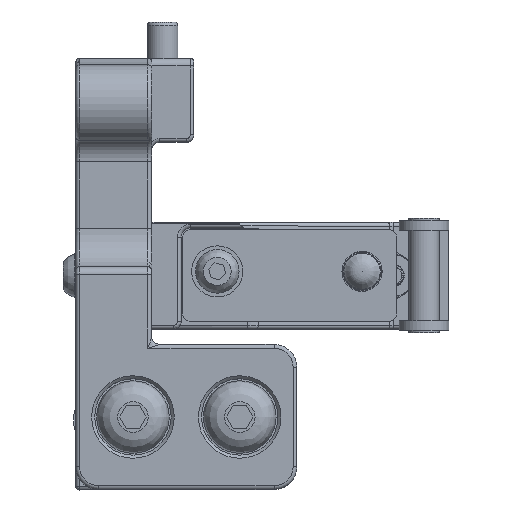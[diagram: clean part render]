
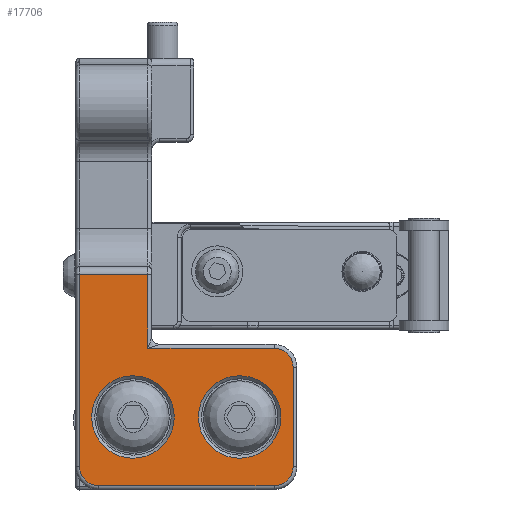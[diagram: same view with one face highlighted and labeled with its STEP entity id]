
A CAD part, top view. The second image highlights one B-rep face of the part: STEP entity #17706.
In plain terms, the highlighted planar face has unit normal (0, 0, 1).
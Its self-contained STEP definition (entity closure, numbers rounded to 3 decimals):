
#548=FACE_BOUND('',#5689,.T.);
#549=FACE_BOUND('',#5690,.T.);
#1440=PLANE('',#19361);
#2043=LINE('',#62227,#3033);
#2044=LINE('',#62231,#3034);
#2045=LINE('',#62235,#3035);
#2046=LINE('',#62237,#3036);
#2047=LINE('',#62239,#3037);
#2048=LINE('',#62240,#3038);
#3033=VECTOR('',#22667,10.);
#3034=VECTOR('',#22670,10.);
#3035=VECTOR('',#22673,10.);
#3036=VECTOR('',#22674,10.);
#3037=VECTOR('',#22675,1.);
#3038=VECTOR('',#22676,10.);
#4576=FACE_OUTER_BOUND('',#5688,.T.);
#5688=EDGE_LOOP('',(#14633,#14634,#14635,#14636,#14637,#14638,#14639,#14640,
#14641));
#5689=EDGE_LOOP('',(#14642));
#5690=EDGE_LOOP('',(#14643));
#6622=CIRCLE('',#19358,5.4);
#6625=CIRCLE('',#19362,2.5);
#6626=CIRCLE('',#19363,2.5);
#6627=CIRCLE('',#19364,2.5);
#6628=CIRCLE('',#19365,5.4);
#8188=VERTEX_POINT('',#62215);
#8191=VERTEX_POINT('',#62223);
#8192=VERTEX_POINT('',#62224);
#8193=VERTEX_POINT('',#62226);
#8194=VERTEX_POINT('',#62228);
#8195=VERTEX_POINT('',#62230);
#8196=VERTEX_POINT('',#62232);
#8197=VERTEX_POINT('',#62234);
#8198=VERTEX_POINT('',#62236);
#8199=VERTEX_POINT('',#62238);
#8200=VERTEX_POINT('',#62241);
#10407=EDGE_CURVE('',#8188,#8188,#6622,.T.);
#10411=EDGE_CURVE('',#8191,#8192,#6625,.T.);
#10412=EDGE_CURVE('',#8193,#8191,#2043,.T.);
#10413=EDGE_CURVE('',#8194,#8193,#6626,.T.);
#10414=EDGE_CURVE('',#8195,#8194,#2044,.T.);
#10415=EDGE_CURVE('',#8196,#8195,#6627,.T.);
#10416=EDGE_CURVE('',#8197,#8196,#2045,.T.);
#10417=EDGE_CURVE('',#8198,#8197,#2046,.T.);
#10418=EDGE_CURVE('',#8199,#8198,#2047,.T.);
#10419=EDGE_CURVE('',#8192,#8199,#2048,.T.);
#10420=EDGE_CURVE('',#8200,#8200,#6628,.T.);
#14633=ORIENTED_EDGE('',*,*,#10411,.F.);
#14634=ORIENTED_EDGE('',*,*,#10412,.F.);
#14635=ORIENTED_EDGE('',*,*,#10413,.F.);
#14636=ORIENTED_EDGE('',*,*,#10414,.F.);
#14637=ORIENTED_EDGE('',*,*,#10415,.F.);
#14638=ORIENTED_EDGE('',*,*,#10416,.F.);
#14639=ORIENTED_EDGE('',*,*,#10417,.F.);
#14640=ORIENTED_EDGE('',*,*,#10418,.F.);
#14641=ORIENTED_EDGE('',*,*,#10419,.F.);
#14642=ORIENTED_EDGE('',*,*,#10420,.F.);
#14643=ORIENTED_EDGE('',*,*,#10407,.F.);
#17706=ADVANCED_FACE('',(#4576,#548,#549),#1440,.F.);
#19358=AXIS2_PLACEMENT_3D('',#62216,#22656,#22657);
#19361=AXIS2_PLACEMENT_3D('',#62222,#22663,#22664);
#19362=AXIS2_PLACEMENT_3D('',#62225,#22665,#22666);
#19363=AXIS2_PLACEMENT_3D('',#62229,#22668,#22669);
#19364=AXIS2_PLACEMENT_3D('',#62233,#22671,#22672);
#19365=AXIS2_PLACEMENT_3D('',#62242,#22677,#22678);
#22656=DIRECTION('center_axis',(0.,0.,
1.));
#22657=DIRECTION('ref_axis',(-1.,0.,0.));
#22663=DIRECTION('center_axis',(0.,0.,
-1.));
#22664=DIRECTION('ref_axis',(0.,-1.,0.));
#22665=DIRECTION('center_axis',(0.,0.,
-1.));
#22666=DIRECTION('ref_axis',(-0.473,-0.881,0.));
#22667=DIRECTION('',(-1.,0.,0.));
#22668=DIRECTION('center_axis',(0.,0.,
-1.));
#22669=DIRECTION('ref_axis',(0.707,-0.707,0.));
#22670=DIRECTION('',(0.,-1.,0.));
#22671=DIRECTION('center_axis',(0.,0.,
-1.));
#22672=DIRECTION('ref_axis',(0.707,0.707,0.));
#22673=DIRECTION('',(1.,0.,0.));
#22674=DIRECTION('',(0.,-1.,0.));
#22675=DIRECTION('',(1.,0.,0.));
#22676=DIRECTION('',(0.,1.,0.));
#22677=DIRECTION('center_axis',(0.,0.,
1.));
#22678=DIRECTION('ref_axis',(-1.,0.,0.));
#62215=CARTESIAN_POINT('',(107.974,96.017,85.2));
#62216=CARTESIAN_POINT('Origin',(102.574,96.017,85.2));
#62222=CARTESIAN_POINT('Origin',(105.044,115.685,85.2));
#62223=CARTESIAN_POINT('',(98.084,87.017,85.2));
#62224=CARTESIAN_POINT('',(95.584,89.517,85.2));
#62225=CARTESIAN_POINT('Origin',(98.084,89.517,85.2));
#62226=CARTESIAN_POINT('',(121.044,87.017,85.2));
#62227=CARTESIAN_POINT('',(114.544,87.017,85.2));
#62228=CARTESIAN_POINT('',(123.544,89.517,85.2));
#62229=CARTESIAN_POINT('Origin',(121.044,89.517,85.2));
#62230=CARTESIAN_POINT('',(123.544,102.517,85.2));
#62231=CARTESIAN_POINT('',(123.544,110.601,85.2));
#62232=CARTESIAN_POINT('',(121.044,105.017,85.2));
#62233=CARTESIAN_POINT('Origin',(121.044,102.517,85.2));
#62234=CARTESIAN_POINT('',(104.544,105.017,85.2));
#62235=CARTESIAN_POINT('',(104.794,105.017,85.2));
#62236=CARTESIAN_POINT('',(104.544,114.685,85.2));
#62237=CARTESIAN_POINT('',(104.544,107.226,85.2));
#62238=CARTESIAN_POINT('',(95.584,114.685,85.2));
#62239=CARTESIAN_POINT('',(105.801,114.685,85.2));
#62240=CARTESIAN_POINT('',(95.584,122.915,85.2));
#62241=CARTESIAN_POINT('',(121.954,96.017,85.2));
#62242=CARTESIAN_POINT('Origin',(116.554,96.017,85.2));
